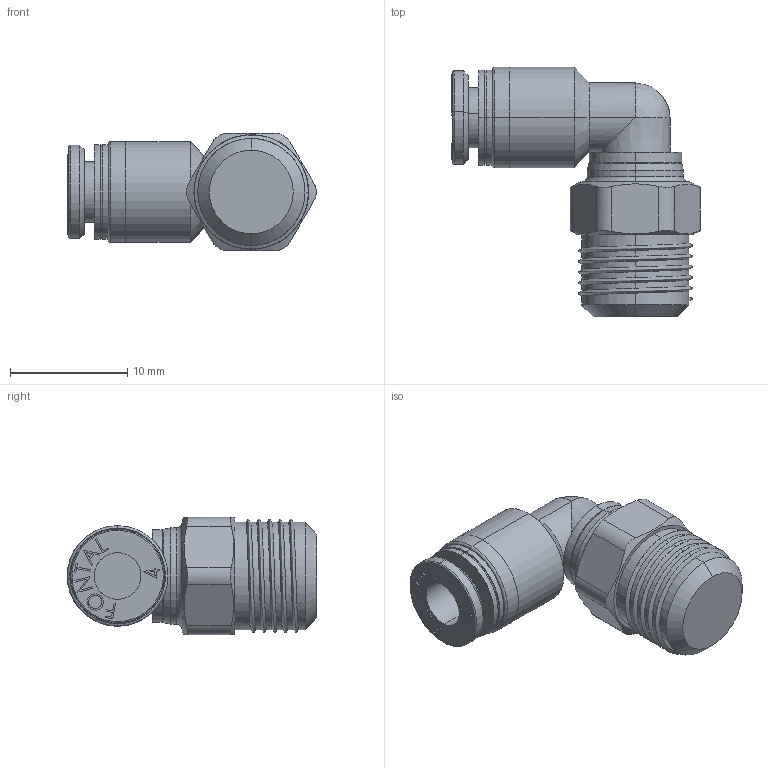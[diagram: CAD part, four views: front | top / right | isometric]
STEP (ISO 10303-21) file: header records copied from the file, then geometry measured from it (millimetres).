
FILE_DESCRIPTION (( 'STEP AP203' ), '1' );
FILE_NAME ('FPL4-01.STEP', '2016-01-14T21:06:01', ( '' ), ( '' ), 'SwSTEP 2.0', 'SolidWorks 2014', '' );
FILE_SCHEMA (( 'CONFIG_CONTROL_DESIGN' ));
Length unit declared in the file: millimetre
Products named in the file (4): FPL4-01; FPL4-01-B; FPC4-01-A; FPL4-01-A
Assembly tree (3 placements, depth 2):
  FPL4-01
    FPL4-01-A
    FPL4-01-B
    FPC4-01-A
Bounding box: 21.2 x 21.3 x 10 mm (x, y, z)
Volume: 1582.7 mm3; surface area: 1444.7 mm2
Topology: 3 solids, 3 shells, 166 faces, 406 edges, 262 vertices
Faces by surface type: plane 91, cylinder 42, cone 17, bspline 10, torus 6
Entity records: 7835 total; most frequent: CARTESIAN_POINT 3651, ORIENTED_EDGE 808, DIRECTION 730, EDGE_CURVE 404, VERTEX_POINT 262, VECTOR 250, LINE 250, AXIS2_PLACEMENT_3D 240
